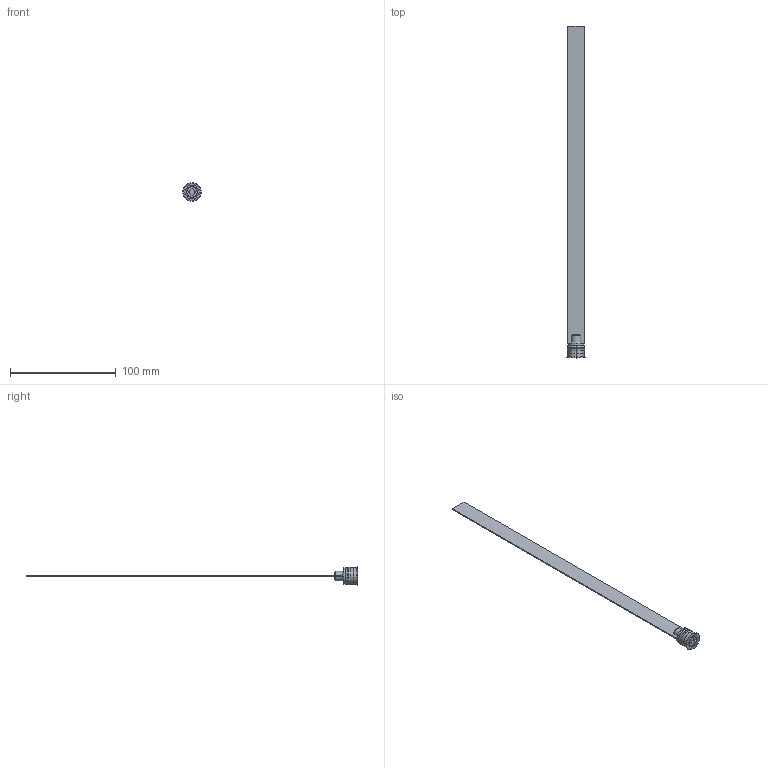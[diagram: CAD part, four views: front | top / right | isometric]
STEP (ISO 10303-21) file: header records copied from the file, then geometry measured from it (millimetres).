
FILE_DESCRIPTION (( 'STEP AP203' ), '1' );
FILE_NAME ('RL-16Fx300-15,5.STEP', '2015-12-02T14:36:23', ( 'Balzi' ), ( '' ), 'SwSTEP 2.0', 'SolidWorks 2015', '' );
FILE_SCHEMA (( 'CONFIG_CONTROL_DESIGN' ));
Length unit declared in the file: millimetre
Products named in the file (1): RL-16Fx300-15,5
Bounding box: 17.5 x 314 x 17.5 mm (x, y, z)
Volume: 7578.3 mm3; surface area: 11677 mm2
Topology: 1 solids, 1 shells, 75 faces, 177 edges, 109 vertices
Faces by surface type: plane 31, cone 19, cylinder 17, torus 8
Entity records: 2245 total; most frequent: CARTESIAN_POINT 412, DIRECTION 386, ORIENTED_EDGE 354, EDGE_CURVE 177, AXIS2_PLACEMENT_3D 147, VERTEX_POINT 109, LINE 92, VECTOR 92
